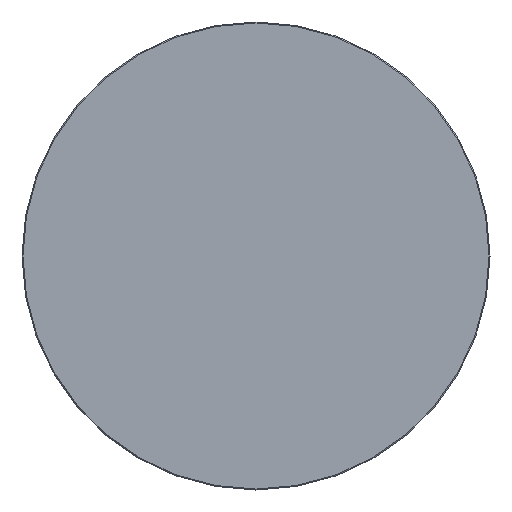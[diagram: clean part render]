
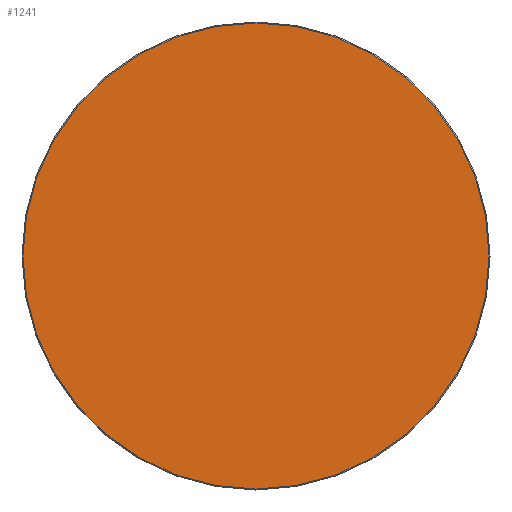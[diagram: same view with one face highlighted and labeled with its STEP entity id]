
A CAD part, left-side view. The second image highlights one B-rep face of the part: STEP entity #1241.
In plain terms, the highlighted planar face has unit normal (-1, 0, 0).
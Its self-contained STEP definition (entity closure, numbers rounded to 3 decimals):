
#149 = DIRECTION ( 'NONE',  ( 0., 0., -1. ) ) ;
#221 = DIRECTION ( 'NONE',  ( -1., 0., 0. ) ) ;
#246 = CARTESIAN_POINT ( 'NONE',  ( 0., 0., 70.7 ) ) ;
#289 = ORIENTED_EDGE ( 'NONE', *, *, #311, .T. ) ;
#311 = EDGE_CURVE ( 'NONE', #1365, #1176, #439, .T. ) ;
#336 = ORIENTED_EDGE ( 'NONE', *, *, #493, .T. ) ;
#388 = DIRECTION ( 'NONE',  ( 0., 0., 1. ) ) ;
#439 = CIRCLE ( 'NONE', #1866, 70.7 ) ;
#493 = EDGE_CURVE ( 'NONE', #1176, #1365, #1340, .T. ) ;
#942 = AXIS2_PLACEMENT_3D ( 'NONE', #1604, #1142, #149 ) ;
#1030 = CARTESIAN_POINT ( 'NONE',  ( 0., 0., 0. ) ) ;
#1142 = DIRECTION ( 'NONE',  ( 1., 0., 0. ) ) ;
#1176 = VERTEX_POINT ( 'NONE', #246 ) ;
#1223 = CARTESIAN_POINT ( 'NONE',  ( 0., 0., 0. ) ) ;
#1241 = ADVANCED_FACE ( 'NONE', ( #1244 ), #1959, .F. ) ;
#1244 = FACE_OUTER_BOUND ( 'NONE', #1302, .T. ) ;
#1302 = EDGE_LOOP ( 'NONE', ( #289, #336 ) ) ;
#1340 = CIRCLE ( 'NONE', #2123, 70.7 ) ;
#1365 = VERTEX_POINT ( 'NONE', #1380 ) ;
#1380 = CARTESIAN_POINT ( 'NONE',  ( 0., 0., -70.7 ) ) ;
#1519 = DIRECTION ( 'NONE',  ( -1., 0., 0. ) ) ;
#1604 = CARTESIAN_POINT ( 'NONE',  ( 0., 0., 0. ) ) ;
#1730 = DIRECTION ( 'NONE',  ( 0., 0., 1. ) ) ;
#1866 = AXIS2_PLACEMENT_3D ( 'NONE', #1030, #1519, #388 ) ;
#1959 = PLANE ( 'NONE',  #942 ) ;
#2123 = AXIS2_PLACEMENT_3D ( 'NONE', #1223, #221, #1730 ) ;
